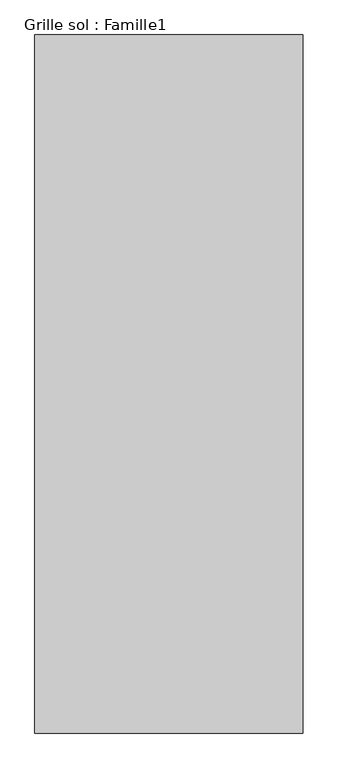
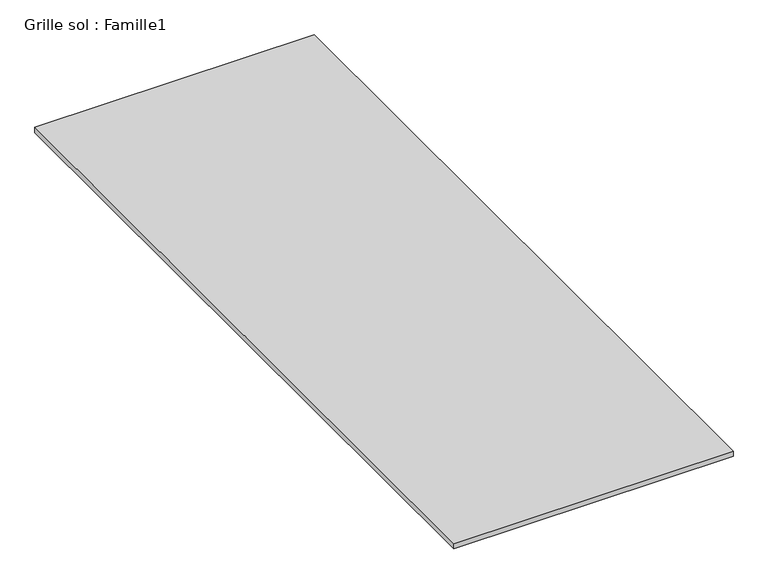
"""IFC4 building model written with IfcOpenShell, lengths in millimetres: proxy geometry, Grille sol : Famille1."""

from ifc_helpers import new_model, si_unit, origin, origin_with_axes, place, context, project, spatial, polyline, outline, extrude, source, transform, mapped, element, save


def grille_sol_famille1_70b6bea4(model_context):
    return source(origin(), model_context, "Body", "SweptSolid", [
        extrude(outline(polyline([(-625.0, 1625.0), (625.0, 1625.0), (625.0, -1625.0), (-625.0, -1625.0), (-625.0, 1625.0)])), origin_with_axes(), (0.0, 0.0, 1.0), 25.0),
    ])


if __name__ == "__main__":
    model = new_model("IFC4")
    model_context = context("Model", 3, world=origin())
    ifc_project = project(units=[si_unit("LENGTHUNIT", "METRE", prefix="MILLI")], contexts=[model_context])
    site = spatial("IfcSite", under=ifc_project)
    building = spatial("IfcBuilding", under=site)
    placement = place(None, origin())
    grille_sol_famille1_shape = grille_sol_famille1_70b6bea4(model_context)
    element("IfcBuildingElementProxy", 1, Name="Grille sol : Famille1", ObjectType="Grille sol : Famille1", at=placement, inside=building, context=model_context, shape_type="MappedRepresentation", body=[
        mapped(grille_sol_famille1_shape, transform((0.0, 0.0, 0.0), x_axis=(1.0, 0.0, 0.0), y_axis=(0.0, 1.0, 0.0), z_axis=(0.0, 0.0, 1.0))),
    ])
    save(model, "model.ifc")
